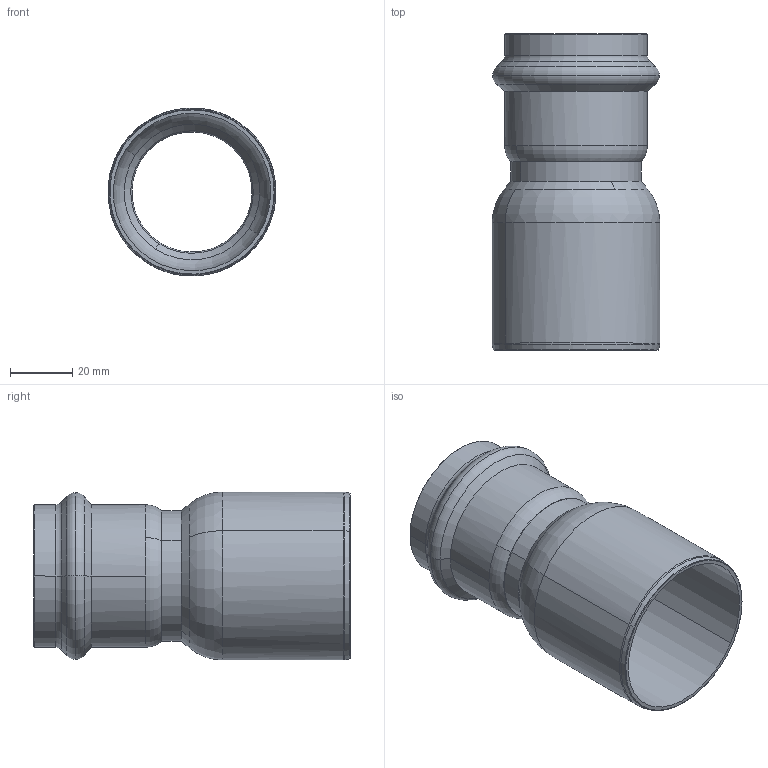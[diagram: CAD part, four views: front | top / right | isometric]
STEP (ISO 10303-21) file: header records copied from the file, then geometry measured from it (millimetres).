
FILE_DESCRIPTION(('CoCreate Modeling STEP Export'),'2;1');
FILE_NAME('8243VW5442.stp','2013-03-05T 9:49:52',(''),(''),'CoCreate Modeling STEP processor for AP214 (Solid Model)','CoCreate Modeling 17.00A 17-Jun-2010 (C) Parametric Technology GmbH','');
FILE_SCHEMA(('AUTOMOTIVE_DESIGN { 1 0 10303 214 1 1 1 1 }'));
Length unit declared in the file: millimetre
Products named in the file (1): 8243VW5442
Bounding box: 53.94 x 101.7 x 53.97 mm (x, y, z)
Volume: 30507.4 mm3; surface area: 32485.8 mm2
Topology: 1 solids, 1 shells, 66 faces, 158 edges, 96 vertices
Faces by surface type: cone 22, torus 22, cylinder 18, plane 4
Entity records: 1517 total; most frequent: ORIENTED_EDGE 316, CARTESIAN_POINT 228, DIRECTION 224, EDGE_CURVE 158, VERTEX_POINT 96, AXIS2_PLACEMENT_3D 92, EDGE_LOOP 70, FACE_OUTER_BOUND 66
